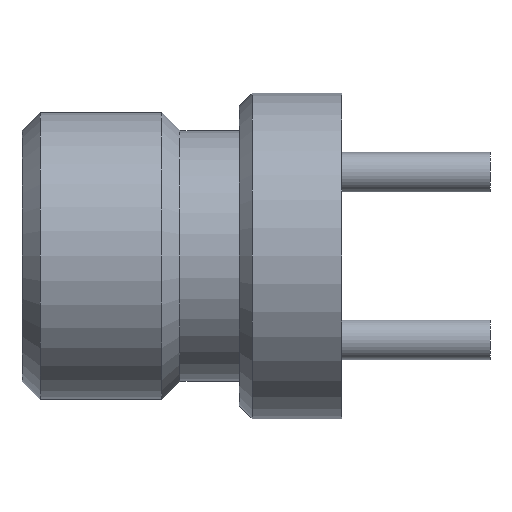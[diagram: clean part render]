
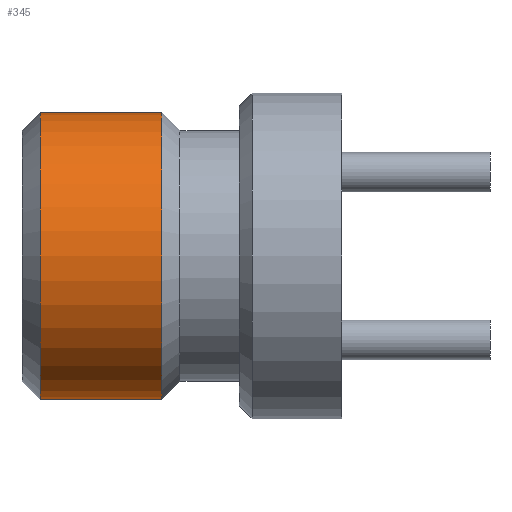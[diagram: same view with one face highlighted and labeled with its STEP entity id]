
A CAD part, front view. The second image highlights one B-rep face of the part: STEP entity #345.
In plain terms, the highlighted cylindrical face has radius 1.843 mm (diameter 3.687 mm), a partial arc.
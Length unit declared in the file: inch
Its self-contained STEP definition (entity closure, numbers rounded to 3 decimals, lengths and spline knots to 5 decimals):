
#79 = EDGE_CURVE ( 'NONE', #503, #1423, #1406, .T. ) ;
#110 = EDGE_CURVE ( 'NONE', #1468, #503, #922, .T. ) ;
#141 = CARTESIAN_POINT ( 'NONE',  ( 0.00917, 0., -0.07258 ) ) ;
#186 = ORIENTED_EDGE ( 'NONE', *, *, #1177, .F. ) ;
#188 = AXIS2_PLACEMENT_3D ( 'NONE', #917, #880, #907 ) ;
#234 = CYLINDRICAL_SURFACE ( 'NONE', #1383, 0.07258 ) ;
#345 = ADVANCED_FACE ( 'NONE', ( #982 ), #234, .T. ) ;
#404 = ORIENTED_EDGE ( 'NONE', *, *, #79, .T. ) ;
#416 = VECTOR ( 'NONE', #1221, 39.37008 ) ;
#449 = CARTESIAN_POINT ( 'NONE',  ( 0.07082, 0., 0.07258 ) ) ;
#503 = VERTEX_POINT ( 'NONE', #449 ) ;
#580 = CARTESIAN_POINT ( 'NONE',  ( 0., 0., -0.07258 ) ) ;
#619 = DIRECTION ( 'NONE',  ( -1., 0., 0. ) ) ;
#725 = DIRECTION ( 'NONE',  ( -1., 0., 0. ) ) ;
#734 = DIRECTION ( 'NONE',  ( 0., 0., 1. ) ) ;
#769 = CARTESIAN_POINT ( 'NONE',  ( 0.07082, 0., 0. ) ) ;
#828 = CIRCLE ( 'NONE', #188, 0.07258 ) ;
#871 = VERTEX_POINT ( 'NONE', #141 ) ;
#880 = DIRECTION ( 'NONE',  ( -1., 0., 0. ) ) ;
#899 = CARTESIAN_POINT ( 'NONE',  ( 0.00917, 0., 0.07258 ) ) ;
#907 = DIRECTION ( 'NONE',  ( 0., 0., 1. ) ) ;
#917 = CARTESIAN_POINT ( 'NONE',  ( 0.00917, 0., 0. ) ) ;
#922 = CIRCLE ( 'NONE', #971, 0.07258 ) ;
#950 = EDGE_CURVE ( 'NONE', #871, #1423, #828, .T. ) ;
#971 = AXIS2_PLACEMENT_3D ( 'NONE', #769, #619, #1136 ) ;
#982 = FACE_OUTER_BOUND ( 'NONE', #1507, .T. ) ;
#1033 = VECTOR ( 'NONE', #1354, 39.37008 ) ;
#1123 = ORIENTED_EDGE ( 'NONE', *, *, #950, .F. ) ;
#1136 = DIRECTION ( 'NONE',  ( 0., 0., 1. ) ) ;
#1144 = CARTESIAN_POINT ( 'NONE',  ( 0., 0., 0.07258 ) ) ;
#1146 = ORIENTED_EDGE ( 'NONE', *, *, #110, .T. ) ;
#1177 = EDGE_CURVE ( 'NONE', #1468, #871, #1633, .T. ) ;
#1180 = CARTESIAN_POINT ( 'NONE',  ( 0.07082, 0., -0.07258 ) ) ;
#1221 = DIRECTION ( 'NONE',  ( -1., 0., 0. ) ) ;
#1354 = DIRECTION ( 'NONE',  ( -1., 0., 0. ) ) ;
#1373 = CARTESIAN_POINT ( 'NONE',  ( 0., 0., 0. ) ) ;
#1383 = AXIS2_PLACEMENT_3D ( 'NONE', #1373, #725, #734 ) ;
#1406 = LINE ( 'NONE', #1144, #1033 ) ;
#1423 = VERTEX_POINT ( 'NONE', #899 ) ;
#1468 = VERTEX_POINT ( 'NONE', #1180 ) ;
#1507 = EDGE_LOOP ( 'NONE', ( #186, #1146, #404, #1123 ) ) ;
#1633 = LINE ( 'NONE', #580, #416 ) ;
